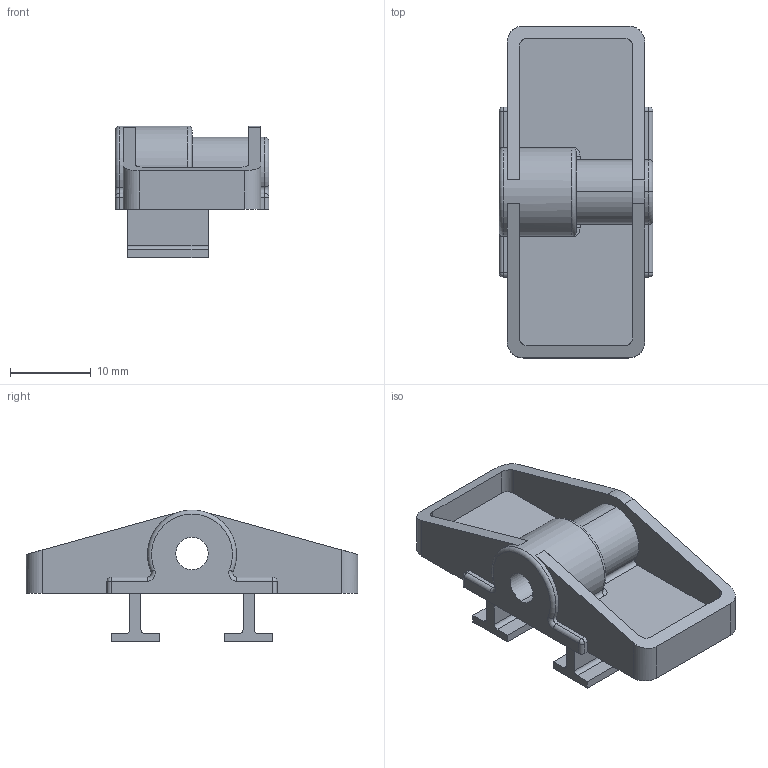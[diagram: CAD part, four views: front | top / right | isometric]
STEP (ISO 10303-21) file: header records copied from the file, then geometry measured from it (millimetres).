
FILE_DESCRIPTION (( 'STEP AP214' ), '1' );
FILE_NAME ('カウンタ_取付金具.STEP', '2024-06-18T02:18:59', ( '' ), ( '' ), 'SwSTEP 2.0', 'SolidWorks 2023', '' );
FILE_SCHEMA (( 'AUTOMOTIVE_DESIGN' ));
Length unit declared in the file: millimetre
Products named in the file (1): カウンタ_取付金具
Bounding box: 19 x 41 x 16.3 mm (x, y, z)
Volume: 3294.6 mm3; surface area: 3548.2 mm2
Topology: 1 solids, 1 shells, 100 faces, 267 edges, 167 vertices
Faces by surface type: plane 44, cylinder 42, torus 8, sphere 4, bspline 2
Entity records: 3179 total; most frequent: CARTESIAN_POINT 651, DIRECTION 538, ORIENTED_EDGE 526, EDGE_CURVE 263, AXIS2_PLACEMENT_3D 190, VERTEX_POINT 167, LINE 158, VECTOR 158
